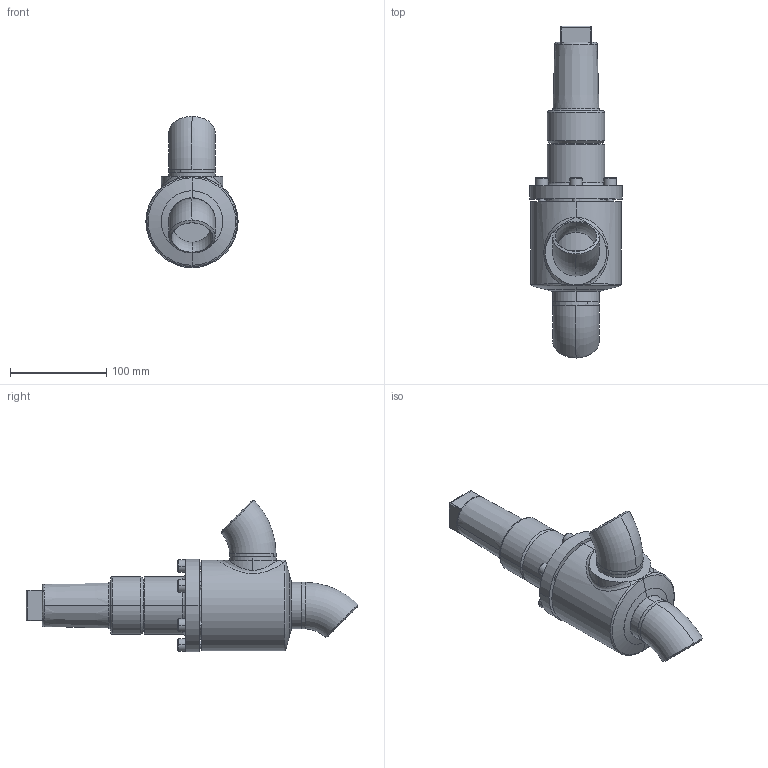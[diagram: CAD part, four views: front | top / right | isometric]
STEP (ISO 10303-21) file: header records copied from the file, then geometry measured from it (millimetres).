
FILE_DESCRIPTION (( 'STEP AP214' ), '1' );
FILE_NAME ('RVAK27300D14-DN040_R1_PS40.STEP', '2006-04-27T13:52:02', ( 'Herr Grams' ), ( 'AWP GmbH' ), 'SwSTEP 2.0', 'SolidWorks 2002296', '' );
FILE_SCHEMA (( 'AUTOMOTIVE_DESIGN' ));
Length unit declared in the file: millimetre
Products named in the file (10): RVAK27300D14-DN040_R1_PS40; Kappe16402_DN040-65_Standard; Gehäuse-kpl16300-DN040_R1_Standard; Gehäuse16300-DN040_Standard; Rohrbogen 45°_R1-Fase_Rohrbogen-DN040-45°; bead16300-Geh-040-2_Standard; bead16300-Geh-040-1_Standard; RVA29300E15_Deck-Schr-DN40-50_Standard; Deckel29300E15-DN40-50_Standard; Zylinderschraube-DIN912_M 8x 25
Assembly tree (15 placements, depth 3):
  RVAK27300D14-DN040_R1_PS40
    Gehäuse-kpl16300-DN040_R1_Standard
      Rohrbogen 45°_R1-Fase_Rohrbogen-DN040-45°  x2
      Gehäuse16300-DN040_Standard
      bead16300-Geh-040-2_Standard
      bead16300-Geh-040-1_Standard
    RVA29300E15_Deck-Schr-DN40-50_Standard
      Zylinderschraube-DIN912_M 8x 25  x6
      Deckel29300E15-DN40-50_Standard
    Kappe16402_DN040-65_Standard
Bounding box: 96 x 345.38 x 157.38 mm (x, y, z)
Volume: 905548.7 mm3; surface area: 172472.6 mm2
Topology: 13 solids, 13 shells, 271 faces, 611 edges, 388 vertices
Faces by surface type: plane 94, cylinder 87, cone 46, torus 33, bspline 11
Entity records: 33389 total; most frequent: CARTESIAN_POINT 28850, DIRECTION 850, ORIENTED_EDGE 798, EDGE_CURVE 399, AXIS2_PLACEMENT_3D 361, VERTEX_POINT 254, EDGE_LOOP 205, CIRCLE 181
